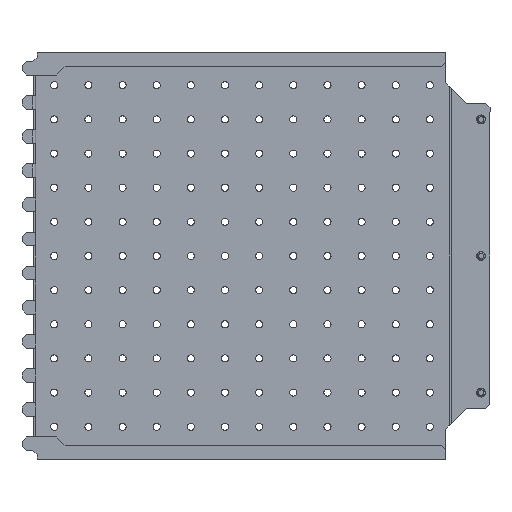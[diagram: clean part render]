
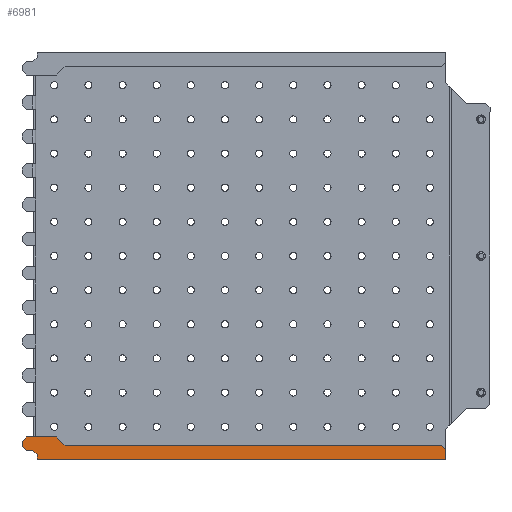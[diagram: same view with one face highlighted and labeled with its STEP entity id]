
A CAD part, front view. The second image highlights one B-rep face of the part: STEP entity #6981.
In plain terms, the highlighted planar face has unit normal (0, -1, 0) as drawn and (0, 1, 0) by its records, which use the part's own axes.
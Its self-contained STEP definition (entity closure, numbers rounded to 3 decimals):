
#29 = EDGE_CURVE ( 'NONE', #17042, #10569, #20467, .T. ) ;
#310 = VERTEX_POINT ( 'NONE', #3330 ) ;
#365 = VERTEX_POINT ( 'NONE', #8673 ) ;
#629 = DIRECTION ( 'NONE',  ( 0.707, 0., -0.707 ) ) ;
#693 = ORIENTED_EDGE ( 'NONE', *, *, #3158, .F. ) ;
#792 = DIRECTION ( 'NONE',  ( 0., 0., 1. ) ) ;
#878 = ORIENTED_EDGE ( 'NONE', *, *, #14225, .F. ) ;
#1206 = ORIENTED_EDGE ( 'NONE', *, *, #11593, .F. ) ;
#1377 = LINE ( 'NONE', #14590, #14617 ) ;
#1649 = CARTESIAN_POINT ( 'NONE',  ( 145.875, -116.335, 85.75 ) ) ;
#1661 = CARTESIAN_POINT ( 'NONE',  ( -135.875, -116.335, 79.5 ) ) ;
#1788 = VERTEX_POINT ( 'NONE', #7120 ) ;
#1976 = LINE ( 'NONE', #1649, #18531 ) ;
#2155 = VECTOR ( 'NONE', #629, 1000. ) ;
#2198 = EDGE_CURVE ( 'NONE', #10998, #19502, #2281, .T. ) ;
#2281 = LINE ( 'NONE', #5247, #20468 ) ;
#2650 = ORIENTED_EDGE ( 'NONE', *, *, #18441, .T. ) ;
#3158 = EDGE_CURVE ( 'NONE', #16861, #17042, #17321, .T. ) ;
#3184 = EDGE_LOOP ( 'NONE', ( #16563, #2650, #18164, #7951, #878, #10533, #4685, #15448, #10599, #17176, #693, #1206, #8555, #15220 ) ) ;
#3330 = CARTESIAN_POINT ( 'NONE',  ( -158.125, -116.335, 89.5 ) ) ;
#3915 = VERTEX_POINT ( 'NONE', #16625 ) ;
#3958 = EDGE_CURVE ( 'NONE', #19502, #17643, #8460, .T. ) ;
#4014 = CARTESIAN_POINT ( 'NONE',  ( -158.125, -116.335, 79.5 ) ) ;
#4685 = ORIENTED_EDGE ( 'NONE', *, *, #10820, .F. ) ;
#4693 = CARTESIAN_POINT ( 'NONE',  ( 148.875, -116.335, 94.25 ) ) ;
#4732 = CARTESIAN_POINT ( 'NONE',  ( 0., -116.335, 0. ) ) ;
#4985 = VECTOR ( 'NONE', #9053, 1000. ) ;
#5247 = CARTESIAN_POINT ( 'NONE',  ( -150.125, -116.335, 92.5 ) ) ;
#6185 = DIRECTION ( 'NONE',  ( 0.707, 0., 0.707 ) ) ;
#6739 = VECTOR ( 'NONE', #13060, 1000. ) ;
#6981 = ADVANCED_FACE ( 'NONE', ( #12911 ), #11274, .F. ) ;
#6988 = LINE ( 'NONE', #11466, #8724 ) ;
#7120 = CARTESIAN_POINT ( 'NONE',  ( 145.875, -116.335, 85.75 ) ) ;
#7328 = CARTESIAN_POINT ( 'NONE',  ( -129.625, -116.335, 85.75 ) ) ;
#7783 = EDGE_CURVE ( 'NONE', #8276, #17250, #1377, .T. ) ;
#7951 = ORIENTED_EDGE ( 'NONE', *, *, #8864, .F. ) ;
#7983 = AXIS2_PLACEMENT_3D ( 'NONE', #4732, #11378, #18013 ) ;
#8035 = LINE ( 'NONE', #9993, #14421 ) ;
#8276 = VERTEX_POINT ( 'NONE', #20978 ) ;
#8284 = DIRECTION ( 'NONE',  ( 0., 0., 1. ) ) ;
#8302 = DIRECTION ( 'NONE',  ( 1., 0., 0. ) ) ;
#8460 = LINE ( 'NONE', #20105, #13375 ) ;
#8555 = ORIENTED_EDGE ( 'NONE', *, *, #10151, .F. ) ;
#8673 = CARTESIAN_POINT ( 'NONE',  ( -150.125, -116.335, 95.75 ) ) ;
#8724 = VECTOR ( 'NONE', #9832, 1000. ) ;
#8746 = DIRECTION ( 'NONE',  ( 1., 0., 0. ) ) ;
#8864 = EDGE_CURVE ( 'NONE', #17574, #3915, #6988, .T. ) ;
#8929 = DIRECTION ( 'NONE',  ( 0., 0., -1. ) ) ;
#9053 = DIRECTION ( 'NONE',  ( 0., 0., -1. ) ) ;
#9673 = CARTESIAN_POINT ( 'NONE',  ( 0., -116.335, 95.75 ) ) ;
#9788 = EDGE_CURVE ( 'NONE', #1788, #20044, #10621, .T. ) ;
#9832 = DIRECTION ( 'NONE',  ( 0., 0., 1. ) ) ;
#9922 = CARTESIAN_POINT ( 'NONE',  ( -158.125, -116.335, 79.5 ) ) ;
#9950 = LINE ( 'NONE', #1661, #13985 ) ;
#9993 = CARTESIAN_POINT ( 'NONE',  ( -161.125, -116.335, 86.5 ) ) ;
#10151 = EDGE_CURVE ( 'NONE', #17643, #310, #14088, .T. ) ;
#10533 = ORIENTED_EDGE ( 'NONE', *, *, #9788, .F. ) ;
#10569 = VERTEX_POINT ( 'NONE', #9922 ) ;
#10599 = ORIENTED_EDGE ( 'NONE', *, *, #16940, .F. ) ;
#10621 = LINE ( 'NONE', #19106, #19885 ) ;
#10820 = EDGE_CURVE ( 'NONE', #17250, #1788, #1976, .T. ) ;
#10998 = VERTEX_POINT ( 'NONE', #12753 ) ;
#11274 = PLANE ( 'NONE',  #7983 ) ;
#11378 = DIRECTION ( 'NONE',  ( 0., -1., 0. ) ) ;
#11466 = CARTESIAN_POINT ( 'NONE',  ( 148.875, -116.335, 0. ) ) ;
#11593 = EDGE_CURVE ( 'NONE', #310, #16861, #8035, .T. ) ;
#11636 = EDGE_CURVE ( 'NONE', #365, #3915, #13382, .T. ) ;
#12233 = CARTESIAN_POINT ( 'NONE',  ( 148.875, -116.335, 88.75 ) ) ;
#12234 = CARTESIAN_POINT ( 'NONE',  ( -150.125, -116.335, 93.25 ) ) ;
#12753 = CARTESIAN_POINT ( 'NONE',  ( -150.125, -116.335, 93.25 ) ) ;
#12911 = FACE_OUTER_BOUND ( 'NONE', #3184, .T. ) ;
#13060 = DIRECTION ( 'NONE',  ( 1., 0., 0. ) ) ;
#13304 = VECTOR ( 'NONE', #20507, 1000. ) ;
#13375 = VECTOR ( 'NONE', #13579, 1000. ) ;
#13382 = LINE ( 'NONE', #9673, #6739 ) ;
#13579 = DIRECTION ( 'NONE',  ( -0.707, 0., -0.707 ) ) ;
#13762 = CARTESIAN_POINT ( 'NONE',  ( -158.125, -116.335, 89.5 ) ) ;
#13956 = CARTESIAN_POINT ( 'NONE',  ( -161.125, -116.335, 82.5 ) ) ;
#13985 = VECTOR ( 'NONE', #8746, 1000. ) ;
#14088 = LINE ( 'NONE', #13762, #13304 ) ;
#14225 = EDGE_CURVE ( 'NONE', #20044, #17574, #21578, .T. ) ;
#14421 = VECTOR ( 'NONE', #21337, 1000. ) ;
#14590 = CARTESIAN_POINT ( 'NONE',  ( -129.625, -116.335, 85.75 ) ) ;
#14617 = VECTOR ( 'NONE', #6185, 1000. ) ;
#14898 = CARTESIAN_POINT ( 'NONE',  ( -153.125, -116.335, 89.5 ) ) ;
#15220 = ORIENTED_EDGE ( 'NONE', *, *, #3958, .F. ) ;
#15448 = ORIENTED_EDGE ( 'NONE', *, *, #7783, .F. ) ;
#16094 = CARTESIAN_POINT ( 'NONE',  ( 148.875, -116.335, 93.25 ) ) ;
#16351 = VECTOR ( 'NONE', #8284, 1000. ) ;
#16563 = ORIENTED_EDGE ( 'NONE', *, *, #2198, .F. ) ;
#16625 = CARTESIAN_POINT ( 'NONE',  ( 148.875, -116.335, 95.75 ) ) ;
#16861 = VERTEX_POINT ( 'NONE', #19648 ) ;
#16940 = EDGE_CURVE ( 'NONE', #10569, #8276, #9950, .T. ) ;
#17042 = VERTEX_POINT ( 'NONE', #18440 ) ;
#17176 = ORIENTED_EDGE ( 'NONE', *, *, #29, .F. ) ;
#17250 = VERTEX_POINT ( 'NONE', #7328 ) ;
#17321 = LINE ( 'NONE', #13956, #4985 ) ;
#17574 = VERTEX_POINT ( 'NONE', #16094 ) ;
#17643 = VERTEX_POINT ( 'NONE', #14898 ) ;
#18013 = DIRECTION ( 'NONE',  ( 0., 0., -1. ) ) ;
#18164 = ORIENTED_EDGE ( 'NONE', *, *, #11636, .T. ) ;
#18440 = CARTESIAN_POINT ( 'NONE',  ( -161.125, -116.335, 82.5 ) ) ;
#18441 = EDGE_CURVE ( 'NONE', #10998, #365, #19192, .T. ) ;
#18531 = VECTOR ( 'NONE', #8302, 1000. ) ;
#18780 = DIRECTION ( 'NONE',  ( 0.707, 0., 0.707 ) ) ;
#19106 = CARTESIAN_POINT ( 'NONE',  ( 148.875, -116.335, 88.75 ) ) ;
#19192 = LINE ( 'NONE', #12234, #21399 ) ;
#19502 = VERTEX_POINT ( 'NONE', #20572 ) ;
#19648 = CARTESIAN_POINT ( 'NONE',  ( -161.125, -116.335, 86.5 ) ) ;
#19885 = VECTOR ( 'NONE', #18780, 1000. ) ;
#20044 = VERTEX_POINT ( 'NONE', #12233 ) ;
#20105 = CARTESIAN_POINT ( 'NONE',  ( -153.125, -116.335, 89.5 ) ) ;
#20467 = LINE ( 'NONE', #4014, #2155 ) ;
#20468 = VECTOR ( 'NONE', #8929, 1000. ) ;
#20507 = DIRECTION ( 'NONE',  ( -1., 0., 0. ) ) ;
#20572 = CARTESIAN_POINT ( 'NONE',  ( -150.125, -116.335, 92.5 ) ) ;
#20978 = CARTESIAN_POINT ( 'NONE',  ( -135.875, -116.335, 79.5 ) ) ;
#21337 = DIRECTION ( 'NONE',  ( -0.707, 0., -0.707 ) ) ;
#21399 = VECTOR ( 'NONE', #792, 1000. ) ;
#21578 = LINE ( 'NONE', #4693, #16351 ) ;
